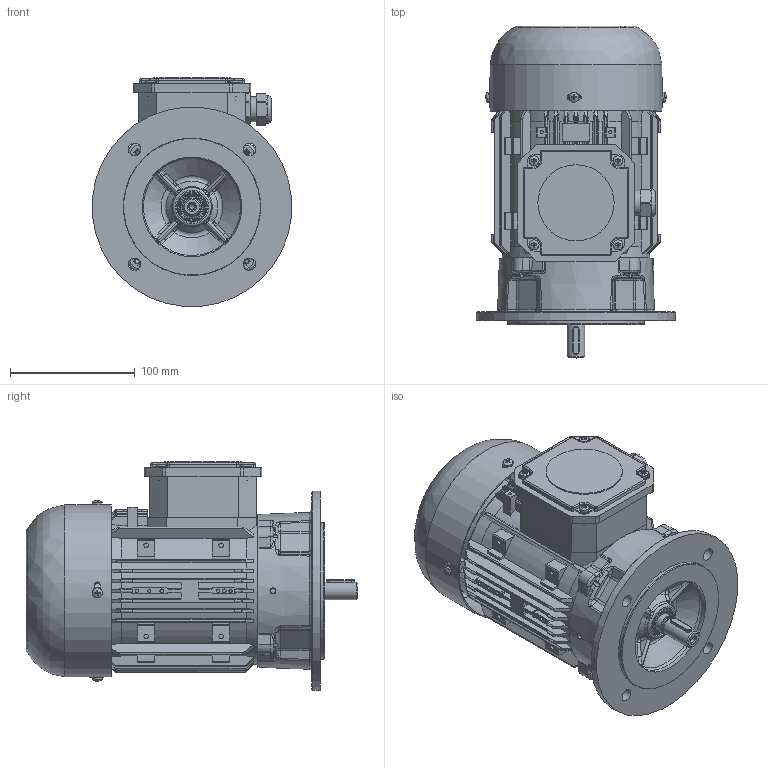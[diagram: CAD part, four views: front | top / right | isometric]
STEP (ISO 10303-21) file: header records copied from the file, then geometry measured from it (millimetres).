
FILE_DESCRIPTION(/* description */ (''),/* implementation_level */ '2;1');
FILE_NAME(/* name */ 'OUTLOOK VIEW QH71 FA B5 FF130 SPL.stp',/* time_stamp */ '2021-09-21T11:47:47+03:00',/* author */ (''),/* organization */ (''),/* preprocessor_version */ 'ST-DEVELOPER v16',/* originating_system */ 'SIEMENS PLM Software NX 11.0',/* authorisation */ '');
FILE_SCHEMA (('AUTOMOTIVE_DESIGN { 1 0 10303 214 3 1 1 1 }'));
Products named in the file (1): 260652D491E0rvs5
Bounding box: 159.4 x 265.66 x 183.2 mm (x, y, z)
Volume: 775321.5 mm3; surface area: 457441.3 mm2
Topology: 48 solids, 54 shells, 3013 faces, 7972 edges, 5062 vertices
Faces by surface type: plane 1215, cylinder 817, bspline 493, cone 293, torus 132, sphere 44, extrusion 19
Full cylindrical faces by diameter (mm): 1.7 x2, 2.5 x12, 3 x4, 3.15 x1, 3.3 x9, 3.65 x12, 3.7 x3, 4 x9, 4.2 x5, 4.5 x4, 4.6 x2, 4.65 x4, 4.8 x4, 5 x4, 5.1 x1, 5.3 x1, 5.5 x1, 8 x9, 10 x4, 13 x1, 13.4 x1, 14 x2, 14.3 x1, 14.4 x2, 15 x6, 15.2 x1, 15.5 x1, 16.9 x1, 18 x2, 18.5 x1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
Entity records: 104059 total; most frequent: CARTESIAN_POINT 33741, ORIENTED_EDGE 14820, DIRECTION 13174, EDGE_CURVE 7410, AXIS2_PLACEMENT_3D 5028, VERTEX_POINT 4948, EDGE_LOOP 3630, VECTOR 3118
